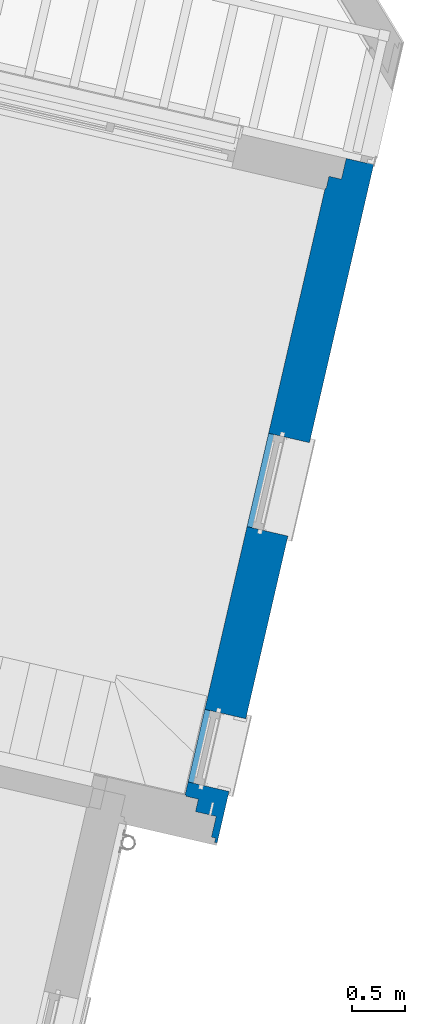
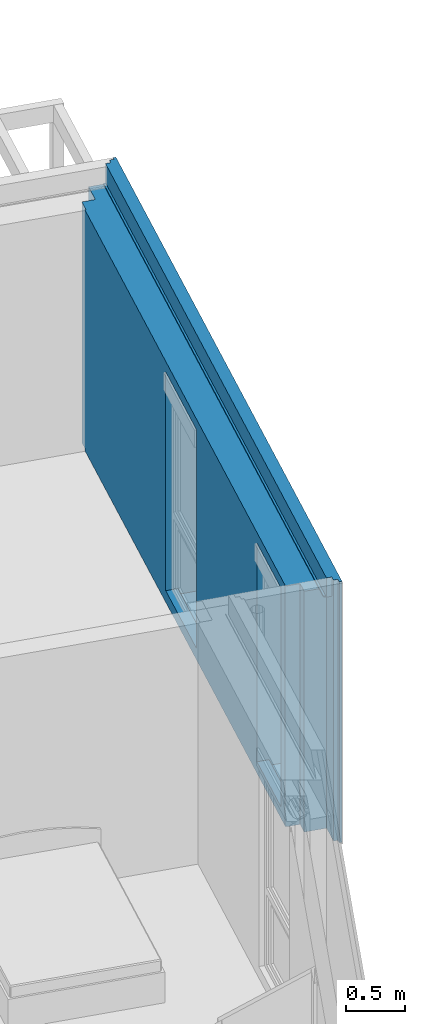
# One storey, part 17 of 62: 1 wall, 2 openings.
"""IFC2X3 building model written with IfcOpenShell, lengths in metres."""

import ifcopenshell
import ifcopenshell.guid

model = None  # the IFC model being written
_history = None  # IfcOwnerHistory: only IFC2X3 demands one
_inside = {}  # id of a spatial element -> (the spatial element, [elements in it])
_under = {}  # id of a project, library or spatial element -> (it, [spatial elements below it])
_declared = {}  # id of a project -> (the project, [libraries it declares])
_typed = {}  # id of a type object -> (the type object, [elements of that type])
_made_of = {}  # id of a material, layer set ... -> (it, [elements and type objects made of it])


def new_model(schema):
    """Start an empty IFC model of exactly this schema.

    Asked for "IFC4X3", IfcOpenShell would pick the latest addendum, in which some entities
    have other attributes; the version numbers below select the first issue.
    IFC2X3 requires an IfcOwnerHistory on every rooted entity: one is made here for all.
    """
    global model, _history
    if schema == "IFC4X3":
        model = ifcopenshell.file(schema_version=(4, 3, 0, 0))
    else:
        model = ifcopenshell.file(schema=schema)
    _inside.clear()
    _under.clear()
    _declared.clear()
    _typed.clear()
    _made_of.clear()
    _history = None
    if model.schema == "IFC2X3":
        org = make("IfcOrganization", Name="unknown")
        user = make(
            "IfcPersonAndOrganization",
            ThePerson=make("IfcPerson", FamilyName="unknown"),
            TheOrganization=org,
        )
        app = make(
            "IfcApplication",
            ApplicationDeveloper=org,
            Version="unknown",
            ApplicationFullName="unknown",
            ApplicationIdentifier="unknown",
        )
        _history = make(
            "IfcOwnerHistory",
            OwningUser=user,
            OwningApplication=app,
            ChangeAction="ADDED",
            CreationDate=0,
        )
    return model


def make(cls, **values):
    """One entity of the class cls with the attributes given. An attribute that is None is left unset."""
    return model.create_entity(
        cls, **{name: value for name, value in values.items() if value is not None}
    )


def entity(cls, *values):
    """Any entity or typed value of the class cls, its attributes in the order of the schema. None: left unset."""
    e = model.create_entity(cls)
    for i, value in enumerate(values):
        if value is not None:
            e[i] = value
    return e


def rooted(cls, **values):
    """An entity with a GlobalId (a new one), such as an element, a storey or a relation."""
    return make(cls, GlobalId=ifcopenshell.guid.new(), OwnerHistory=_history, **values)


def si_unit(unit_type, name, prefix=None):
    """IfcSIUnit, for example si_unit("LENGTHUNIT", "METRE", prefix="MILLI")."""
    return make("IfcSIUnit", UnitType=unit_type, Prefix=prefix, Name=name)


def converted_unit(unit_type, name, factor, base, dimensions=None, offset=None):
    """IfcConversionBasedUnit, such as the inch: factor (a typed value) times the base unit."""
    return make(
        "IfcConversionBasedUnit"
        if offset is None
        else "IfcConversionBasedUnitWithOffset",
        ConversionOffset=offset,
        Dimensions=None
        if dimensions is None
        else entity("IfcDimensionalExponents", *dimensions),
        UnitType=unit_type,
        Name=name,
        ConversionFactor=make(
            "IfcMeasureWithUnit", ValueComponent=factor, UnitComponent=base
        ),
    )


def derived_unit(unit_type, elements):
    """IfcDerivedUnit: a product of units, each with its exponent."""
    return make(
        "IfcDerivedUnit",
        Elements=[
            make("IfcDerivedUnitElement", Unit=unit, Exponent=power)
            for unit, power in elements
        ],
        UnitType=unit_type,
    )


def money_unit(currency):
    """IfcMonetaryUnit."""
    return make("IfcMonetaryUnit", Currency=currency)


def assignment(units):
    """IfcUnitAssignment: the units of a project."""
    return None if units is None else make("IfcUnitAssignment", Units=units)


def point(xyz):
    """IfcCartesianPoint."""
    return None if xyz is None else make("IfcCartesianPoint", Coordinates=xyz)


def direction(xyz):
    """IfcDirection."""
    return None if xyz is None else make("IfcDirection", DirectionRatios=xyz)


def frame(location, z_axis=None, x_axis=None):
    """IfcAxis2Placement3D, a coordinate frame: its origin and axes. An axis left out is left unset."""
    return make(
        "IfcAxis2Placement3D",
        Location=point(location),
        Axis=direction(z_axis),
        RefDirection=direction(x_axis),
    )


def origin_with_axes():
    """The frame at (0, 0, 0) with the z axis (0, 0, 1) and the x axis (1, 0, 0) written out."""
    return frame((0.0, 0.0, 0.0), z_axis=(0.0, 0.0, 1.0), x_axis=(1.0, 0.0, 0.0))


def place(relative_to, where):
    """IfcLocalPlacement: puts the frame where relative to a parent placement (None: the world)."""
    return make(
        "IfcLocalPlacement", PlacementRelTo=relative_to, RelativePlacement=where
    )


def context(
    kind, dimensions, precision=None, world=None, true_north=None, identifier=None
):
    """IfcGeometricRepresentationContext, for example the 3D "Model" context."""
    return make(
        "IfcGeometricRepresentationContext",
        ContextIdentifier=identifier,
        ContextType=kind,
        CoordinateSpaceDimension=dimensions,
        Precision=precision,
        WorldCoordinateSystem=world,
        TrueNorth=true_north,
    )


def subcontext(parent, identifier, kind, view, scale=None):
    """IfcGeometricRepresentationSubContext, for example "Body" below "Model"."""
    return make(
        "IfcGeometricRepresentationSubContext",
        ContextIdentifier=identifier,
        ContextType=kind,
        ParentContext=parent,
        TargetScale=scale,
        TargetView=view,
    )


def project(units=None, contexts=None):
    """IfcProject with its units and contexts."""
    return rooted(
        "IfcProject",
        Name="project",
        RepresentationContexts=contexts,
        UnitsInContext=assignment(units),
    )


def spatial(cls, under=None, at=None, **own):
    """A site, building, storey or space (cls), placed at a placement, below another one or the project."""
    s = rooted(cls, ObjectPlacement=at, **own)
    if under is not None:
        _under.setdefault(under.id(), (under, []))[1].append(s)
    return s


def faces_of(points, faces, orient=None, outer=None):
    """IfcFace entities. A face is a list of loops; a loop is a list of indices into points, from 0.

    orient and outer hold one flag for each loop. By default every Orientation is true, the
    first loop of a face is its IfcFaceOuterBound and the others are IfcFaceBound.
    """
    made = []
    for i, loops in enumerate(faces):
        bounds = []
        for j, loop in enumerate(loops):
            is_outer = j == 0 if outer is None else outer[i][j]
            bounds.append(
                make(
                    "IfcFaceOuterBound" if is_outer else "IfcFaceBound",
                    Bound=make("IfcPolyLoop", Polygon=[points[k] for k in loop]),
                    Orientation=True if orient is None else orient[i][j],
                )
            )
        made.append(make("IfcFace", Bounds=bounds))
    return made


def faceted_brep(points, faces, orient=None, outer=None, voids=None):
    """IfcFacetedBrep: a solid bounded by flat faces; with voids (closed shells), ...WithVoids."""
    shared = [point(p) for p in points]
    hull = make("IfcClosedShell", CfsFaces=faces_of(shared, faces, orient, outer))
    if voids is None:
        return make("IfcFacetedBrep", Outer=hull)
    return make(
        "IfcFacetedBrepWithVoids",
        Outer=hull,
        Voids=[
            make(cls, CfsFaces=faces_of(shared, fs, o, b)) for cls, fs, o, b in voids
        ],
    )


def shape(context_of_items, identifier, shape_type, items):
    """IfcShapeRepresentation: the items that make up one representation, for example the "Body"."""
    return make(
        "IfcShapeRepresentation",
        ContextOfItems=context_of_items,
        RepresentationIdentifier=identifier,
        RepresentationType=shape_type,
        Items=items,
    )


def material(Name=None, Category=None):
    """IfcMaterial."""
    return make("IfcMaterial", Name=Name, Category=Category)


def material_list(materials):
    """IfcMaterialList."""
    return make("IfcMaterialList", Materials=materials)


def made_of(thing, what):
    """Note that an element or type object is made of a material, layer set ...; save() writes the relation."""
    if what is not None:
        _made_of.setdefault(what.id(), (what, []))[1].append(thing)
    return thing


def type_object(cls, material=None, **own):
    """A type object (cls), such as IfcWallType, which elements share."""
    return made_of(rooted(cls, **own), material)


def element(
    cls,
    number,
    at=None,
    inside=None,
    cuts=None,
    type_object=None,
    material=None,
    context=None,
    identifier="Body",
    shape_type=None,
    held_by="IfcProductDefinitionShape",
    body=None,
    shapes=None,
    **own,
):
    """One element of the class cls, such as IfcWall. Its Tag is "e" and its number.

    at: its placement. inside: the storey or other place that contains it. cuts: it is an
    opening in that element (IfcRelVoidsElement). A single representation is given by context,
    identifier, shape_type and body (its items); several are given by shapes. held_by: the class
    of the entity that holds the representations. save() writes the other relations.
    """
    e = rooted(cls, Tag="e%d" % number, ObjectPlacement=at, **own)
    if body is not None:
        shapes = [shape(context, identifier, shape_type, body)]
    if shapes is not None:
        e.Representation = make(held_by, Representations=shapes)
    if inside is not None:
        _inside.setdefault(inside.id(), (inside, []))[1].append(e)
    if cuts is not None:
        rooted(
            "IfcRelVoidsElement", RelatingBuildingElement=cuts, RelatedOpeningElement=e
        )
    if type_object is not None:
        _typed.setdefault(type_object.id(), (type_object, []))[1].append(e)
    return made_of(e, material)


def aggregate(whole, parts):
    """IfcRelAggregates: a whole, such as a stair, and the parts it consists of."""
    return rooted("IfcRelAggregates", RelatingObject=whole, RelatedObjects=parts)


def save(model, path):
    """Write the relations noted so far, then the file.

    IfcRelAggregates (storeys below a building ...), IfcRelContainedInSpatialStructure (elements
    in a storey), IfcRelDefinesByType, IfcRelAssociatesMaterial and IfcRelDeclares: one each for
    every whole, place, type object, material and project.
    """
    for whole, parts in _under.values():
        aggregate(whole, parts)
    for where, things in _inside.values():
        rooted(
            "IfcRelContainedInSpatialStructure",
            RelatedElements=things,
            RelatingStructure=where,
        )
    for kind, things in _typed.values():
        rooted("IfcRelDefinesByType", RelatedObjects=things, RelatingType=kind)
    for what, things in _made_of.values():
        rooted("IfcRelAssociatesMaterial", RelatedObjects=things, RelatingMaterial=what)
    for by, libraries in _declared.values():
        rooted("IfcRelDeclares", RelatingContext=by, RelatedDefinitions=libraries)
    model.write(path)


model = new_model("IFC2X3")

# Units and contexts
model_context = context("Model", 3, precision=1e-05, world=origin_with_axes(), true_north=direction((0.0, 1.0)))
body_context = subcontext(model_context, "Body", "Model", "MODEL_VIEW")
ifc_project = project(units=[si_unit("LENGTHUNIT", "METRE"), si_unit("AREAUNIT", "SQUARE_METRE"), si_unit("VOLUMEUNIT", "CUBIC_METRE"), converted_unit("PLANEANGLEUNIT", "DEGREE", entity("IfcPlaneAngleMeasure", 0.0174532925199), si_unit("PLANEANGLEUNIT", "RADIAN"), dimensions=[0, 0, 0, 0, 0, 0, 0]), si_unit("SOLIDANGLEUNIT", "STERADIAN"), money_unit("EUR"), converted_unit("TIMEUNIT", "Year", entity("IfcTimeMeasure", 31556926.0), si_unit("TIMEUNIT", "SECOND"), dimensions=[0, 0, 1, 0, 0, 0, 0]), si_unit("MASSUNIT", "GRAM", prefix="KILO"), si_unit("THERMODYNAMICTEMPERATUREUNIT", "DEGREE_CELSIUS"), si_unit("LUMINOUSINTENSITYUNIT", "LUMEN"), si_unit("ENERGYUNIT", "JOULE", prefix="MEGA"), derived_unit("THERMALCONDUCTANCEUNIT", [(si_unit("POWERUNIT", "WATT"), 1), (si_unit("LENGTHUNIT", "METRE"), -1), (si_unit("THERMODYNAMICTEMPERATUREUNIT", "KELVIN"), -1)]), derived_unit("SPECIFICHEATCAPACITYUNIT", [(si_unit("ENERGYUNIT", "JOULE"), 1), (si_unit("MASSUNIT", "GRAM", prefix="KILO"), -1), (si_unit("THERMODYNAMICTEMPERATUREUNIT", "KELVIN"), -1)]), derived_unit("MASSDENSITYUNIT", [(si_unit("MASSUNIT", "GRAM", prefix="KILO"), 1), (si_unit("VOLUMEUNIT", "CUBIC_METRE"), -1)])], contexts=[model_context])

# Site, building, storey
site_placement = place(None, origin_with_axes())
site = spatial("IfcSite", under=ifc_project, at=site_placement, Name="Site", CompositionType="ELEMENT")
building_placement = place(site_placement, origin_with_axes())
building = spatial("IfcBuilding", under=site, at=building_placement, Name="Bâtiment", CompositionType="ELEMENT")
storey_placement = place(building_placement, frame((0.0, 0.0, 8.16), z_axis=(0.0, 0.0, 1.0), x_axis=(1.0, 0.0, 0.0)))
storey = spatial("IfcBuildingStorey", under=building, at=storey_placement, Name="R+3", CompositionType="ELEMENT", Elevation=8.16)

# Wall, openings
ifc_material_1 = material(Name="Finition ext - Bardage bois")
ifc_material_2 = material(Name="Bois - Lattage")
ifc_material_3 = material(Name="Béton cellulaire")
ifc_material_4 = material(Name="Mortier")
ifc_material_5 = material(Name="Bloc ELITHERM")
ifc_material_6 = material(Name="Isolation - Polystyrène extrudé")
ifc_material_7 = material(Name="Finition int - Plaque de plâtre")
ifc_material_list = material_list([ifc_material_1, ifc_material_2, ifc_material_3, ifc_material_4, ifc_material_5, ifc_material_6, ifc_material_7])
wall_type = type_object("IfcWallType", Name="Mur ALKERN + planelle 21 BARDAGE courant 395 x 2720", PredefinedType="USERDEFINED")
wall_placement = place(storey_placement, frame((1.22744784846, 12.8417526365, 0.0), z_axis=(0.0, 0.0, 1.0), x_axis=(-0.224876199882, -0.974387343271, 0.0)))
wall = element("IfcWall", 1, at=wall_placement, inside=storey, type_object=wall_type, material=ifc_material_list, Name="Mue bloc ALKERN isolé", ObjectType="SOLIDWALL", context=body_context, shape_type="Brep", body=[
    faceted_brep([(5.4227958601, 0.01, 0.12), (5.4227958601, 0.035, 0.12), (5.4227958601, 0.035, 2.22), (5.4227958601, 0.01, 2.22), (5.4227958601, 0.035, 0.06), (5.4227958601, 0.01, 0.06), (6.61899998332, 0.0349999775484, 2.34217267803e-09), (0.0799999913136, 0.035, 0.0), (0.0800000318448, 0.035, 0.110000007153), (0.0699999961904, 0.035, 0.110000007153), (0.0700000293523, 0.035, 0.200000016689), (0.0123110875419, 0.035, 0.2), (0.0123110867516, 0.035, 0.229999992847), (0.0700000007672, 0.035, 0.230000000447), (0.0799999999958, 0.035, 0.230000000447), (0.0799999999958, 0.035, 0.4), (0.0750000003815, 0.035, 0.4), (0.0149996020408, 0.035, 0.399999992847), (0.0150004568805, 0.035, 2.72), (6.61899998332, 0.0350000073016, 2.72), (3.66026381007, 0.035, 0.06), (3.66026381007, 0.035, 0.12), (3.66026381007, 0.035, 2.22), (2.76026381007, 0.035, 2.22), (2.76026381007, 0.035, 0.12), (2.76026381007, 0.035, 0.06), (6.1227958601, 0.035, 0.06), (6.1227958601, 0.035, 0.12), (6.1227958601, 0.035, 2.22), (6.1227958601, 0.01, 2.22), (0.0150004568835, 0.01, 2.72), (0.0149996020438, 0.01, 0.399999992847), (0.0750000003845, 0.01, 0.4), (0.0799999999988, 0.01, 0.4), (0.0799999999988, 0.01, 0.230000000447), (0.0700000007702, 0.01, 0.230000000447), (0.0123110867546, 0.01, 0.229999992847), (0.0123110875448, 0.01, 0.2), (0.0700000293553, 0.01, 0.200000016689), (0.0699999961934, 0.01, 0.110000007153), (0.0800000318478, 0.01, 0.110000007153), (0.0799999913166, 0.01, 0.0), (6.61899998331, 0.01, 2.29609575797e-09), (6.61899998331, 0.01, 2.72), (2.76026381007, 0.01, 0.06), (2.76026381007, 0.01, 0.12), (2.76026381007, 0.01, 2.22), (3.66026381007, 0.01, 2.22), (3.66026381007, 0.01, 0.12), (3.66026381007, 0.01, 0.06), (6.1227958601, 0.01, 0.12), (6.1227958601, 0.01, 0.06)], [[[0, 1, 2, 3]], [[4, 1, 0, 5]], [[6, 7, 8, 9, 10, 11, 12, 13, 14, 15, 16, 17, 18, 19], [20, 21, 22, 23, 24, 25], [26, 27, 28, 2, 1, 4]], [[28, 29, 3, 2]], [[30, 31, 32, 33, 34, 35, 36, 37, 38, 39, 40, 41, 42, 43], [44, 45, 46, 47, 48, 49], [5, 0, 3, 29, 50, 51]], [[26, 4, 5, 51]], [[7, 6, 42, 41]], [[41, 40, 8, 7]], [[40, 39, 9, 8]], [[39, 38, 10, 9]], [[38, 37, 11, 10]], [[37, 36, 12, 11]], [[35, 13, 12, 36]], [[34, 14, 13, 35]], [[33, 15, 14, 34]], [[33, 32, 16, 15]], [[17, 16, 32, 31]], [[17, 31, 30, 18]], [[30, 43, 19, 18]], [[6, 19, 43, 42]], [[20, 49, 48, 21]], [[47, 22, 21, 48]], [[46, 23, 22, 47]], [[23, 46, 45, 24]], [[45, 44, 25, 24]], [[44, 49, 20, 25]], [[50, 27, 26, 51]], [[27, 50, 29, 28]]]),
    faceted_brep([(5.4227958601, -0.0300000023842, 0.12), (5.4227958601, 0.00999999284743, 0.12), (5.4227958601, 0.00999999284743, 2.22), (5.4227958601, -0.0300000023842, 2.22), (5.4227958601, 0.00999999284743, 0.06), (5.4227958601, -0.0300000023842, 0.06), (0.0399999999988, 0.00999999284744, 2.72), (6.57899997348, 0.00999999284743, 2.72), (6.57899997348, 0.00999999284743, 2.51999999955), (6.57899997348, 0.00999999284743, 2.5099999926), (6.57899997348, 0.00999999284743, 2.29609575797e-09), (0.0799999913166, 0.00999999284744, 0.0), (0.0800000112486, 0.00999999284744, 0.109999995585), (0.0799999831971, 0.00999999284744, 0.2), (0.0799999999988, 0.00999999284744, 0.230000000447), (0.0799999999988, 0.00999999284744, 0.4), (0.0750000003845, 0.00999999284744, 0.4), (0.0399999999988, 0.00999999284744, 0.4), (0.0399999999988, 0.00999999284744, 2.50999999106), (0.0399999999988, 0.00999999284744, 2.51999999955), (3.66026381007, 0.00999999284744, 0.06), (3.66026381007, 0.00999999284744, 0.12), (3.66026381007, 0.00999999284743, 2.22), (2.76026381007, 0.00999999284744, 2.22), (2.76026381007, 0.00999999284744, 0.12), (2.76026381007, 0.00999999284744, 0.06), (6.1227958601, 0.00999999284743, 0.06), (6.1227958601, 0.00999999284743, 0.12), (6.1227958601, 0.00999999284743, 2.22), (6.1227958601, -0.0300000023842, 2.22), (0.0400000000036, -0.0300000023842, 2.51999999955), (0.0400000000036, -0.0300000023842, 2.50999999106), (0.0400000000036, -0.0300000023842, 0.4), (0.0750000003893, -0.0300000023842, 0.4), (0.0800000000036, -0.0300000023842, 0.4), (0.0800000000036, -0.0300000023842, 0.230000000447), (0.0799999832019, -0.0300000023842, 0.2), (0.0800000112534, -0.0300000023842, 0.109999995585), (0.0799999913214, -0.0300000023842, 0.0), (6.57899997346, -0.0300000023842, 2.22237339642e-09), (6.57899997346, -0.0300000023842, 2.5099999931), (6.57899997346, -0.0300000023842, 2.51999999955), (6.57899997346, -0.0300000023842, 2.72), (0.0400000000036, -0.0300000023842, 2.72), (2.76026381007, -0.0300000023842, 0.06), (2.76026381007, -0.0300000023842, 0.12), (2.76026381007, -0.0300000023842, 2.22), (3.66026381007, -0.0300000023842, 2.22), (3.66026381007, -0.0300000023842, 0.12), (3.66026381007, -0.0300000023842, 0.06), (6.1227958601, -0.0300000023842, 0.12), (6.1227958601, -0.0300000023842, 0.06)], [[[0, 1, 2, 3]], [[4, 1, 0, 5]], [[6, 7, 8, 9, 10, 11, 12, 13, 14, 15, 16, 17, 18, 19], [20, 21, 22, 23, 24, 25], [26, 27, 28, 2, 1, 4]], [[28, 29, 3, 2]], [[30, 31, 32, 33, 34, 35, 36, 37, 38, 39, 40, 41, 42, 43], [44, 45, 46, 47, 48, 49], [5, 0, 3, 29, 50, 51]], [[26, 4, 5, 51]], [[7, 6, 43, 42]], [[41, 8, 7, 42]], [[9, 8, 41, 40]], [[10, 9, 40, 39]], [[11, 10, 39, 38]], [[38, 37, 12, 11]], [[37, 36, 13, 12]], [[36, 35, 14, 13]], [[34, 15, 14, 35]], [[34, 33, 16, 15]], [[33, 32, 17, 16]], [[32, 31, 18, 17]], [[31, 30, 19, 18]], [[30, 43, 6, 19]], [[20, 49, 48, 21]], [[47, 22, 21, 48]], [[46, 23, 22, 47]], [[23, 46, 45, 24]], [[45, 44, 25, 24]], [[44, 49, 20, 25]], [[50, 27, 26, 51]], [[27, 50, 29, 28]]]),
    faceted_brep([(0.0800000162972, -0.03, 2.51999999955), (0.0800000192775, -0.03, 2.72), (6.53099998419, -0.03, 2.72), (6.53099998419, -0.03, 2.51999999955), (0.0800000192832, -0.0779999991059, 2.72), (0.080000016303, -0.0779999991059, 2.51999999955), (6.53099998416, -0.0779999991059, 2.72), (6.53099998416, -0.0779999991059, 2.51999999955)], [[[0, 1, 2, 3]], [[4, 1, 0, 5]], [[1, 4, 6, 2]], [[3, 2, 6, 7]], [[5, 0, 3, 7]], [[4, 5, 7, 6]]]),
    faceted_brep([(0.0800000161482, -0.03, 2.50999999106), (0.0800000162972, -0.03, 2.51999999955), (6.51099998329, -0.03, 2.52), (6.51099998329, -0.03, 2.51000000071), (0.0800000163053, -0.098, 2.51999999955), (0.0800000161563, -0.098, 2.50999999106), (6.51099998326, -0.098, 2.52), (6.51099998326, -0.098, 2.510000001)], [[[0, 1, 2, 3]], [[4, 1, 0, 5]], [[1, 4, 6, 2]], [[3, 2, 6, 7]], [[5, 0, 3, 7]], [[4, 5, 7, 6]]]),
    faceted_brep([(5.4227958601, -0.21, 0.12), (5.4227958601, -0.03, 0.12), (5.4227958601, -0.03, 2.22), (5.4227958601, -0.18, 2.22), (5.4227958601, -0.21, 2.22), (5.4227958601, -0.03, 0.06), (5.4227958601, -0.229999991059, 0.12), (5.4227958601, -0.229999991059, 0.06), (0.0800000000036, -0.03, 0.230000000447), (0.0799999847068, -0.03, 0.399999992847), (0.0800000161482, -0.03, 2.50999999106), (6.3789999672, -0.03, 2.50999999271), (6.3789999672, -0.03, 2.22237339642e-09), (0.0799999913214, -0.03, 0.0), (0.0800000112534, -0.03, 0.109999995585), (0.0799999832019, -0.03, 0.2), (3.66026381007, -0.03, 0.06), (3.66026381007, -0.03, 0.12), (3.66026381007, -0.03, 2.22), (2.76026381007, -0.03, 2.22), (2.76026381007, -0.03, 0.12), (2.76026381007, -0.03, 0.06), (6.1227958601, -0.03, 0.06), (6.1227958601, -0.03, 0.12), (6.1227958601, -0.03, 2.22), (6.1227958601, -0.18, 2.22), (5.4227958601, -0.18, 2.4), (5.4227958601, -0.229999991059, 2.4), (5.4227958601, -0.229999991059, 2.22), (6.3789999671, -0.229999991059, 2.50999999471), (0.0800000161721, -0.229999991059, 2.50999999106), (0.0799999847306, -0.229999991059, 0.399999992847), (0.0800000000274, -0.229999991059, 0.230000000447), (0.0799999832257, -0.229999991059, 0.2), (0.0800000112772, -0.229999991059, 0.109999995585), (0.0799999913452, -0.229999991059, 0.0), (6.3789999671, -0.229999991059, 1.85376336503e-09), (3.66026381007, -0.229999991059, 2.4), (3.66026381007, -0.229999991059, 2.22), (3.66026381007, -0.229999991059, 0.12), (3.66026381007, -0.229999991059, 0.06), (2.76026381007, -0.229999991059, 0.06), (2.76026381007, -0.229999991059, 0.12), (2.76026381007, -0.229999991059, 2.22), (2.76026381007, -0.229999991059, 2.4), (6.1227958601, -0.229999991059, 2.4), (6.1227958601, -0.229999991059, 2.22), (6.1227958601, -0.229999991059, 0.12), (6.1227958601, -0.229999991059, 0.06), (0.0800000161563, -0.0979999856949, 2.50999999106), (6.37899996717, -0.0979999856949, 2.50999999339), (3.66026381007, -0.21, 0.12), (3.66026381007, -0.18, 2.22), (3.66026381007, -0.21, 2.22), (2.76026381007, -0.18, 2.22), (2.76026381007, -0.21, 2.22), (2.76026381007, -0.21, 0.12), (6.1227958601, -0.21, 0.12), (6.1227958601, -0.21, 2.22), (6.1227958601, -0.18, 2.4), (3.66026381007, -0.18, 2.4), (2.76026381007, -0.18, 2.4)], [[[0, 1, 2, 3, 4]], [[5, 1, 0, 6, 7]], [[8, 9, 10, 11, 12, 13, 14, 15], [16, 17, 18, 19, 20, 21], [22, 23, 24, 2, 1, 5]], [[3, 2, 24, 25]], [[26, 27, 28, 4, 3]], [[6, 0, 4, 28]], [[29, 30, 31, 32, 33, 34, 35, 36], [37, 38, 39, 40, 41, 42, 43, 44], [7, 6, 28, 27, 45, 46, 47, 48]], [[22, 5, 7, 48]], [[32, 31, 9, 8]], [[49, 10, 9, 31, 30]], [[11, 10, 49, 50]], [[12, 11, 50, 29, 36]], [[13, 12, 36, 35]], [[35, 34, 14, 13]], [[34, 33, 15, 14]], [[33, 32, 8, 15]], [[40, 39, 51, 17, 16]], [[52, 18, 17, 51, 53]], [[54, 19, 18, 52]], [[54, 55, 56, 20, 19]], [[42, 41, 21, 20, 56]], [[16, 21, 41, 40]], [[57, 23, 22, 48, 47]], [[23, 57, 58, 25, 24]], [[25, 59, 26, 3]], [[27, 26, 59, 45]], [[50, 49, 30, 29]], [[52, 53, 38, 37, 60]], [[51, 39, 38, 53]], [[42, 56, 55, 43]], [[55, 54, 61, 44, 43]], [[44, 61, 60, 37]], [[46, 45, 59, 25, 58]], [[57, 47, 46, 58]], [[52, 60, 61, 54]]]),
    faceted_brep([(5.4227958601, -0.251, 0.12), (5.4227958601, -0.230000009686, 0.12), (5.4227958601, -0.230000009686, 2.22), (5.4227958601, -0.350000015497, 2.22), (5.4227958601, -0.350000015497, 0.12), (5.4227958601, -0.230000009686, 0.06), (5.4227958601, -0.251, 0.06), (0.279999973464, -0.230000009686, 0.109999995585), (0.279999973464, -0.230000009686, 0.2), (0.279999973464, -0.230000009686, 0.229999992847), (0.279999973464, -0.230000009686, 0.399999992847), (0.279999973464, -0.230000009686, 2.50999999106), (6.25899998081, -0.230000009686, 2.51000000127), (6.25899998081, -0.230000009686, 1.85376336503e-09), (0.279999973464, -0.230000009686, 0.0), (2.76026381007, -0.230000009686, 0.06), (3.66026381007, -0.230000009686, 0.06), (3.66026381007, -0.230000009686, 0.12), (3.66026381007, -0.230000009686, 2.22), (3.66026381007, -0.230000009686, 2.4), (2.76026381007, -0.230000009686, 2.4), (2.76026381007, -0.230000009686, 2.22), (2.76026381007, -0.230000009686, 0.12), (6.1227958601, -0.230000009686, 0.06), (6.1227958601, -0.230000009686, 0.12), (6.1227958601, -0.230000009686, 2.22), (6.1227958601, -0.230000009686, 2.4), (5.4227958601, -0.230000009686, 2.4), (5.4227958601, -0.350000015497, 2.4), (0.279999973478, -0.350000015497, 0.0), (6.25899998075, -0.350000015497, 1.63259628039e-09), (6.25899998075, -0.350000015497, 2.51000000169), (0.279999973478, -0.350000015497, 2.50999999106), (0.279999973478, -0.350000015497, 0.399999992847), (0.279999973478, -0.350000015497, 0.229999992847), (0.279999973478, -0.350000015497, 0.2), (0.279999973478, -0.350000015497, 0.109999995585), (3.66026381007, -0.350000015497, 2.4), (3.66026381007, -0.350000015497, 2.22), (3.66026381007, -0.350000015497, 0.12), (2.76026381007, -0.350000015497, 0.12), (2.76026381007, -0.350000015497, 2.22), (2.76026381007, -0.350000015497, 2.4), (6.1227958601, -0.350000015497, 2.4), (6.1227958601, -0.350000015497, 2.22), (6.1227958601, -0.350000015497, 0.12), (6.1227958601, -0.251, 0.12), (6.1227958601, -0.251, 0.06), (3.66026381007, -0.251, 0.06), (2.76026381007, -0.251, 0.06), (3.66026381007, -0.251, 0.12), (2.76026381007, -0.251, 0.12)], [[[0, 1, 2, 3, 4]], [[5, 1, 0, 6]], [[7, 8, 9, 10, 11, 12, 13, 14], [15, 16, 17, 18, 19, 20, 21, 22], [23, 24, 25, 26, 27, 2, 1, 5]], [[27, 28, 3, 2]], [[29, 30, 31, 32, 33, 34, 35, 36], [37, 38, 39, 40, 41, 42], [4, 3, 28, 43, 44, 45]], [[46, 0, 4, 45]], [[0, 46, 47, 6]], [[23, 5, 6, 47]], [[8, 7, 36, 35]], [[9, 8, 35, 34]], [[10, 9, 34, 33]], [[11, 10, 33, 32]], [[32, 31, 12, 11]], [[12, 31, 30, 13]], [[14, 13, 30, 29]], [[7, 14, 29, 36]], [[48, 16, 15, 49]], [[48, 50, 17, 16]], [[50, 39, 38, 18, 17]], [[19, 18, 38, 37]], [[20, 19, 37, 42]], [[21, 20, 42, 41]], [[22, 21, 41, 40, 51]], [[49, 15, 22, 51]], [[46, 24, 23, 47]], [[24, 46, 45, 44, 25]], [[25, 44, 43, 26]], [[26, 43, 28, 27]], [[39, 50, 51, 40]], [[49, 51, 50, 48]]]),
    faceted_brep([(6.24900000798, -0.350000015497, 1.63259628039e-09), (0.399999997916, -0.350000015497, 0.0), (0.399999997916, -0.350000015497, 0.109999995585), (0.399999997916, -0.350000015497, 0.2), (0.399999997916, -0.350000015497, 0.229999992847), (0.399999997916, -0.350000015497, 0.399999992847), (0.399999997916, -0.350000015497, 2.51), (6.24900000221, -0.350000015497, 2.51000000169), (3.66026381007, -0.350000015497, 2.22), (3.66026381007, -0.350000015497, 2.4), (2.76026381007, -0.350000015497, 2.4), (2.76026381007, -0.350000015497, 2.22), (2.76026381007, -0.350000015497, 0.12), (3.66026381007, -0.350000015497, 0.12), (6.1227958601, -0.350000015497, 2.22), (6.1227958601, -0.350000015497, 2.4), (5.4227958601, -0.350000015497, 2.4), (5.4227958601, -0.350000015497, 2.22), (5.4227958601, -0.350000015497, 0.12), (6.1227958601, -0.350000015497, 0.12), (6.24900000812, -0.35999998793, 1.61416480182e-09), (0.399999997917, -0.35999998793, 0.0), (0.399999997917, -0.35999998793, 0.109999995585), (0.399999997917, -0.35999998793, 0.2), (0.399999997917, -0.35999998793, 0.229999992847), (0.399999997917, -0.35999998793, 0.399999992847), (0.399999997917, -0.35999998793, 2.51), (6.2490000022, -0.35999998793, 2.51000000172), (3.66026381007, -0.35999998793, 2.22), (3.66026381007, -0.35999998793, 2.4), (2.76026381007, -0.35999998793, 2.4), (2.76026381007, -0.35999998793, 2.22), (2.76026381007, -0.35999998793, 0.12), (3.66026381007, -0.35999998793, 0.12), (6.1227958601, -0.35999998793, 2.22), (6.1227958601, -0.35999998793, 2.4), (5.4227958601, -0.35999998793, 2.4), (5.4227958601, -0.35999998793, 2.22), (5.4227958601, -0.35999998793, 0.12), (6.1227958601, -0.35999998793, 0.12)], [[[0, 1, 2, 3, 4, 5, 6, 7], [8, 9, 10, 11, 12, 13], [14, 15, 16, 17, 18, 19]], [[20, 21, 1, 0]], [[21, 22, 2, 1]], [[22, 23, 3, 2]], [[23, 24, 4, 3]], [[24, 25, 5, 4]], [[25, 26, 6, 5]], [[7, 6, 26, 27]], [[20, 0, 7, 27]], [[28, 29, 9, 8]], [[29, 30, 10, 9]], [[30, 31, 11, 10]], [[32, 12, 11, 31]], [[33, 13, 12, 32]], [[13, 33, 28, 8]], [[15, 14, 34, 35]], [[16, 15, 35, 36]], [[17, 16, 36, 37]], [[17, 37, 38, 18]], [[18, 38, 39, 19]], [[34, 14, 19, 39]], [[23, 22, 21, 20, 27, 26, 25, 24], [29, 28, 33, 32, 31, 30], [35, 34, 39, 38, 37, 36]]]),
])
opening_1_placement = place(wall_placement, frame((3.21026381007, 0.0, 0.12), z_axis=(0.0, 0.0, 1.0), x_axis=(1.0, 0.0, 0.0)))
element("IfcOpeningElement", 2, at=opening_1_placement, cuts=wall, Name="MEN 102", context=body_context, shape_type="Brep", body=[
    faceted_brep([(-0.45, -0.21, 0.0), (0.45, -0.21, 0.0), (0.45, -0.84999998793, 0.0), (-0.45, -0.84999998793, 0.0), (-0.45, -0.21, 2.1), (0.45, -0.21, 2.1), (0.45, -0.84999998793, 2.1), (-0.45, -0.84999998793, 2.1)], [[[0, 1, 2, 3]], [[0, 4, 5, 1]], [[1, 5, 6, 2]], [[3, 2, 6, 7]], [[4, 0, 3, 7]], [[5, 4, 7, 6]]]),
    faceted_brep([(-0.45, -0.21, 0.0), (-0.45, -0.21, 2.1), (-0.45, 0.42999998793, 2.1), (-0.45, 0.42999998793, 0.0), (0.45, -0.21, 0.0), (0.45, -0.21, 2.1), (0.45, 0.42999998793, 2.1), (0.45, 0.42999998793, 0.0)], [[[0, 1, 2, 3]], [[0, 4, 5, 1]], [[1, 5, 6, 2]], [[3, 2, 6, 7]], [[4, 0, 3, 7]], [[5, 4, 7, 6]]]),
    faceted_brep([(-0.45, -0.21, 0.0), (-0.45, -0.21, 2.1), (-0.45, 0.42999998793, 2.1), (-0.45, 0.42999998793, 0.0), (0.45, -0.21, 0.0), (0.45, -0.21, 2.1), (0.45, 0.42999998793, 2.1), (0.45, 0.42999998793, 0.0)], [[[0, 1, 2, 3]], [[0, 4, 5, 1]], [[1, 5, 6, 2]], [[3, 2, 6, 7]], [[4, 0, 3, 7]], [[5, 4, 7, 6]]]),
    faceted_brep([(-0.45, -0.18, 2.1), (0.45, -0.18, 2.1), (0.45, -0.81999998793, 2.1), (-0.45, -0.81999998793, 2.1), (-0.45, -0.18, 2.28), (0.45, -0.18, 2.28), (0.45, -0.81999998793, 2.28), (-0.45, -0.81999998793, 2.28)], [[[0, 1, 2, 3]], [[0, 4, 5, 1]], [[1, 5, 6, 2]], [[3, 2, 6, 7]], [[4, 0, 3, 7]], [[5, 4, 7, 6]]]),
    faceted_brep([(-0.45, -0.251, 0.0), (0.45, -0.251, 0.0), (0.45, 0.38899998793, 0.0), (-0.45, 0.38899998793, 0.0), (-0.45, -0.251, -0.06), (0.45, -0.251, -0.06), (0.45, 0.38899998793, -0.06), (-0.45, 0.38899998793, -0.06)], [[[0, 1, 2, 3]], [[0, 4, 5, 1]], [[1, 5, 6, 2]], [[3, 2, 6, 7]], [[4, 0, 3, 7]], [[5, 4, 7, 6]]]),
])
opening_2_placement = place(wall_placement, frame((5.7727958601, 0.0, 0.12), z_axis=(0.0, 0.0, 1.0), x_axis=(1.0, 0.0, 0.0)))
element("IfcOpeningElement", 3, at=opening_2_placement, cuts=wall, Name="MEN 101", context=body_context, shape_type="Brep", body=[
    faceted_brep([(0.35, -0.84999998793, 0.0), (-0.35, -0.84999998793, 0.0), (-0.35, -0.21, 0.0), (0.35, -0.21, 0.0), (0.35, -0.84999998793, 2.1), (-0.35, -0.84999998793, 2.1), (-0.35, -0.21, 2.1), (0.35, -0.21, 2.1)], [[[0, 1, 2, 3]], [[0, 4, 5, 1]], [[1, 5, 6, 2]], [[3, 2, 6, 7]], [[4, 0, 3, 7]], [[5, 4, 7, 6]]]),
    faceted_brep([(0.35, 0.42999998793, 0.0), (0.35, 0.42999998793, 2.1), (0.35, -0.21, 2.1), (0.35, -0.21, 0.0), (-0.35, 0.42999998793, 0.0), (-0.35, 0.42999998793, 2.1), (-0.35, -0.21, 2.1), (-0.35, -0.21, 0.0)], [[[0, 1, 2, 3]], [[0, 4, 5, 1]], [[1, 5, 6, 2]], [[3, 2, 6, 7]], [[4, 0, 3, 7]], [[5, 4, 7, 6]]]),
    faceted_brep([(0.35, 0.42999998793, 0.0), (0.35, 0.42999998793, 2.1), (0.35, -0.21, 2.1), (0.35, -0.21, 0.0), (-0.35, 0.42999998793, 0.0), (-0.35, 0.42999998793, 2.1), (-0.35, -0.21, 2.1), (-0.35, -0.21, 0.0)], [[[0, 1, 2, 3]], [[0, 4, 5, 1]], [[1, 5, 6, 2]], [[3, 2, 6, 7]], [[4, 0, 3, 7]], [[5, 4, 7, 6]]]),
    faceted_brep([(0.35, -0.81999998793, 2.1), (-0.35, -0.81999998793, 2.1), (-0.35, -0.18, 2.1), (0.35, -0.18, 2.1), (0.35, -0.81999998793, 2.28), (-0.35, -0.81999998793, 2.28), (-0.35, -0.18, 2.28), (0.35, -0.18, 2.28)], [[[0, 1, 2, 3]], [[0, 4, 5, 1]], [[1, 5, 6, 2]], [[3, 2, 6, 7]], [[4, 0, 3, 7]], [[5, 4, 7, 6]]]),
    faceted_brep([(0.35, 0.38899998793, 0.0), (-0.35, 0.38899998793, 0.0), (-0.35, -0.251, 0.0), (0.35, -0.251, 0.0), (0.35, 0.38899998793, -0.06), (-0.35, 0.38899998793, -0.06), (-0.35, -0.251, -0.06), (0.35, -0.251, -0.06)], [[[0, 1, 2, 3]], [[0, 4, 5, 1]], [[1, 5, 6, 2]], [[3, 2, 6, 7]], [[4, 0, 3, 7]], [[5, 4, 7, 6]]]),
])

save(model, "model.ifc")
